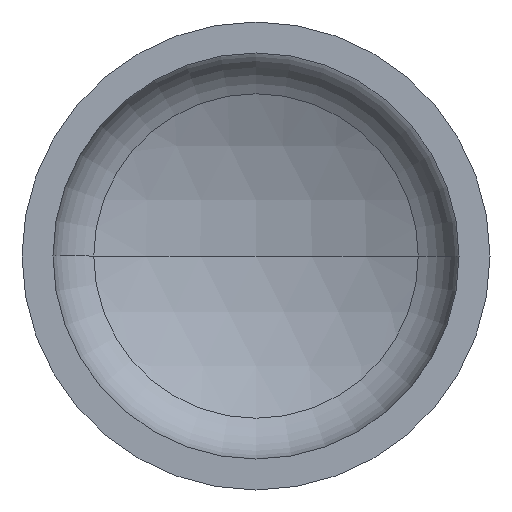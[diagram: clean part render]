
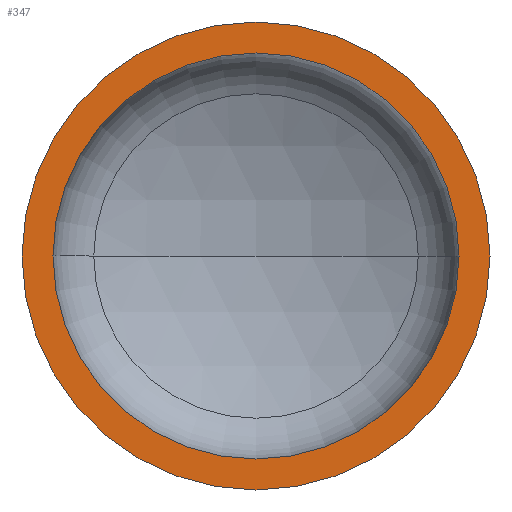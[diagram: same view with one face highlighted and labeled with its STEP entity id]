
A CAD part, front view. The second image highlights one B-rep face of the part: STEP entity #347.
In plain terms, the highlighted planar face has unit normal (0, -1, 0).
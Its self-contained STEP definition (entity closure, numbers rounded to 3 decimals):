
#5 = VERTEX_POINT ( 'NONE', #221 ) ;
#21 = AXIS2_PLACEMENT_3D ( 'NONE', #394, #227, #232 ) ;
#42 = CIRCLE ( 'NONE', #182, 650. ) ;
#53 = AXIS2_PLACEMENT_3D ( 'NONE', #337, #334, #331 ) ;
#55 = CARTESIAN_POINT ( 'NONE',  ( -564., 0., 0. ) ) ;
#56 = AXIS2_PLACEMENT_3D ( 'NONE', #148, #163, #164 ) ;
#68 = ORIENTED_EDGE ( 'NONE', *, *, #362, .T. ) ;
#73 = FACE_OUTER_BOUND ( 'NONE', #237, .T. ) ;
#85 = EDGE_CURVE ( 'NONE', #5, #150, #225, .T. ) ;
#91 = EDGE_CURVE ( 'NONE', #181, #297, #356, .T. ) ;
#108 = EDGE_LOOP ( 'NONE', ( #230, #411 ) ) ;
#115 = DIRECTION ( 'NONE',  ( -1., 0., 0. ) ) ;
#130 = AXIS2_PLACEMENT_3D ( 'NONE', #310, #280, #115 ) ;
#142 = FACE_BOUND ( 'NONE', #108, .T. ) ;
#148 = CARTESIAN_POINT ( 'NONE',  ( 0., 0., 0. ) ) ;
#150 = VERTEX_POINT ( 'NONE', #226 ) ;
#163 = DIRECTION ( 'NONE',  ( 0., -1., 0. ) ) ;
#164 = DIRECTION ( 'NONE',  ( 1., 0., 0. ) ) ;
#170 = CARTESIAN_POINT ( 'NONE',  ( 0., 0., 0. ) ) ;
#181 = VERTEX_POINT ( 'NONE', #212 ) ;
#182 = AXIS2_PLACEMENT_3D ( 'NONE', #170, #373, #200 ) ;
#200 = DIRECTION ( 'NONE',  ( 1., 0., 0. ) ) ;
#212 = CARTESIAN_POINT ( 'NONE',  ( 564., 0., 0. ) ) ;
#221 = CARTESIAN_POINT ( 'NONE',  ( -650., 0., 0. ) ) ;
#225 = CIRCLE ( 'NONE', #56, 650. ) ;
#226 = CARTESIAN_POINT ( 'NONE',  ( 650., 0., 0. ) ) ;
#227 = DIRECTION ( 'NONE',  ( 0., -1., 0. ) ) ;
#230 = ORIENTED_EDGE ( 'NONE', *, *, #91, .F. ) ;
#232 = DIRECTION ( 'NONE',  ( 1., 0., 0. ) ) ;
#237 = EDGE_LOOP ( 'NONE', ( #68, #332 ) ) ;
#280 = DIRECTION ( 'NONE',  ( 0., 1., 0. ) ) ;
#297 = VERTEX_POINT ( 'NONE', #55 ) ;
#310 = CARTESIAN_POINT ( 'NONE',  ( -650., 0., 0. ) ) ;
#330 = EDGE_CURVE ( 'NONE', #297, #181, #383, .T. ) ;
#331 = DIRECTION ( 'NONE',  ( 1., 0., 0. ) ) ;
#332 = ORIENTED_EDGE ( 'NONE', *, *, #85, .T. ) ;
#334 = DIRECTION ( 'NONE',  ( 0., -1., 0. ) ) ;
#337 = CARTESIAN_POINT ( 'NONE',  ( 0., 0., 0. ) ) ;
#347 = ADVANCED_FACE ( 'NONE', ( #142, #73 ), #375, .F. ) ;
#356 = CIRCLE ( 'NONE', #53, 564. ) ;
#362 = EDGE_CURVE ( 'NONE', #150, #5, #42, .T. ) ;
#373 = DIRECTION ( 'NONE',  ( 0., -1., 0. ) ) ;
#375 = PLANE ( 'NONE',  #130 ) ;
#383 = CIRCLE ( 'NONE', #21, 564. ) ;
#394 = CARTESIAN_POINT ( 'NONE',  ( 0., 0., 0. ) ) ;
#411 = ORIENTED_EDGE ( 'NONE', *, *, #330, .F. ) ;
